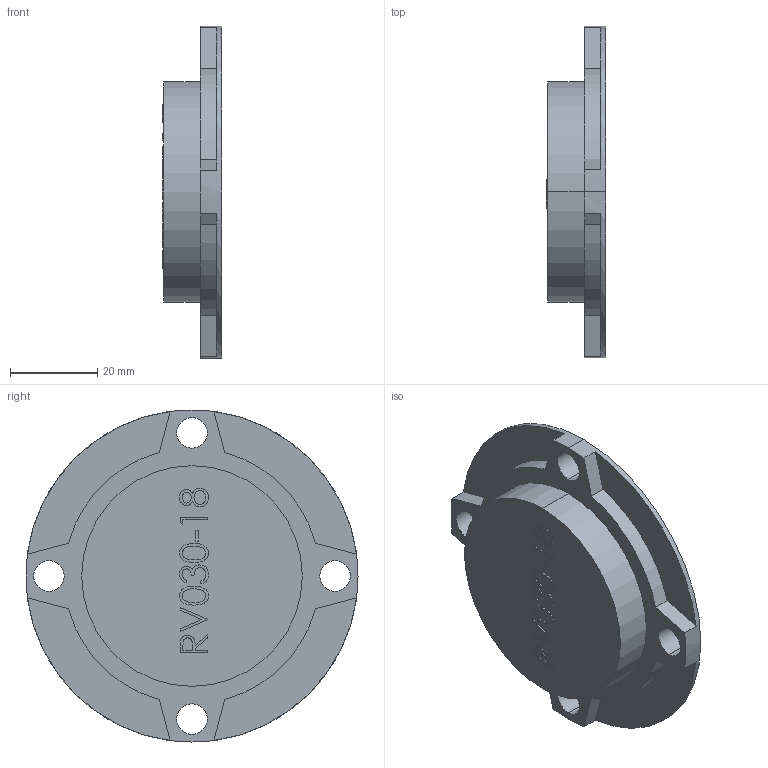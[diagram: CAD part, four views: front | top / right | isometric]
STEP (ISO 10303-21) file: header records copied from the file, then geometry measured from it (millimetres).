
FILE_DESCRIPTION (( 'STEP AP203' ), '1' );
FILE_NAME ('CALM30-OPC.STEP', '2014-09-02T03:45:11', ( 'user' ), ( '' ), 'SwSTEP 2.0', 'SolidWorks 2012', '' );
FILE_SCHEMA (( 'CONFIG_CONTROL_DESIGN' ));
Length unit declared in the file: millimetre
Products named in the file (1): CALM30-OPC
Bounding box: 13.6 x 76 x 76 mm (x, y, z)
Volume: 10057.3 mm3; surface area: 13583.2 mm2
Topology: 1 solids, 1 shells, 135 faces, 351 edges, 234 vertices
Faces by surface type: plane 61, bspline 54, cylinder 20
Entity records: 7542 total; most frequent: CARTESIAN_POINT 4455, ORIENTED_EDGE 702, DIRECTION 455, EDGE_CURVE 351, VERTEX_POINT 234, VECTOR 195, LINE 195, EDGE_LOOP 159
